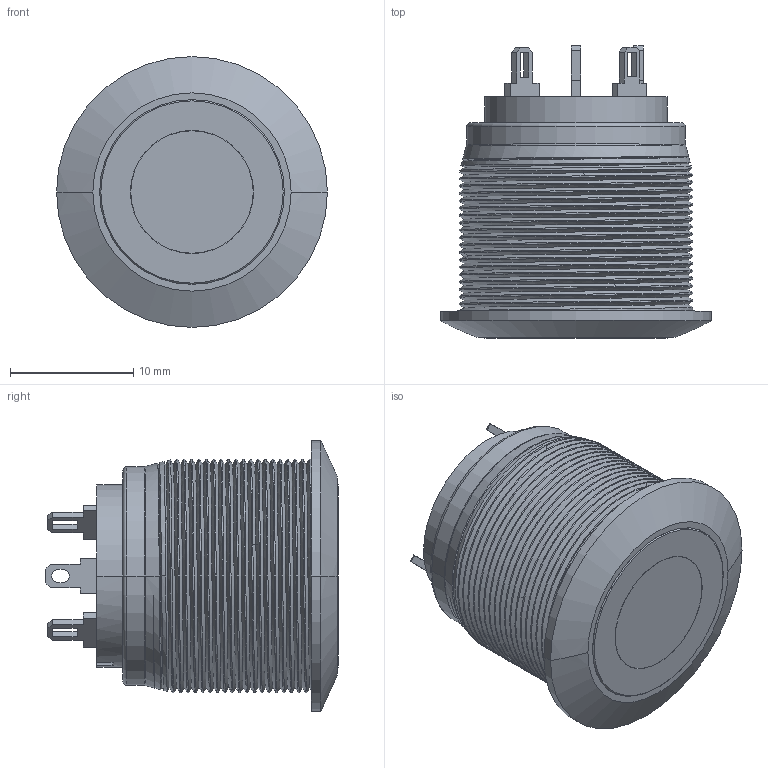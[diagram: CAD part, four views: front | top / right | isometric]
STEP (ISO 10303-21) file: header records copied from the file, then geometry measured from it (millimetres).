
FILE_DESCRIPTION((''),'2;1');
FILE_NAME('AV09C7L3D200','2013-01-25T',('jlgachon'),(''),'PRO/ENGINEER BY PARAMETRIC TECHNOLOGY CORPORATION, 2012310','PRO/ENGINEER BY PARAMETRIC TECHNOLOGY CORPORATION, 2012310','');
FILE_SCHEMA(('CONFIG_CONTROL_DESIGN'));
Length unit declared in the file: millimetre
Products named in the file (1): AV09C7L3D200
Bounding box: 22 x 23.76 x 22 mm (x, y, z)
Surface area: 2583.9 mm2 (no closed solid volume)
Topology: 0 solids, 8 shells, 141 faces, 442 edges, 311 vertices
Faces by surface type: plane 64, cylinder 50, bspline 12, cone 9, torus 4, sphere 2
Entity records: 13851 total; most frequent: CARTESIAN_POINT 10080, ORIENTED_EDGE 795, DIRECTION 661, EDGE_CURVE 442, VERTEX_POINT 311, VECTOR 277, LINE 277, AXIS2_PLACEMENT_3D 192
